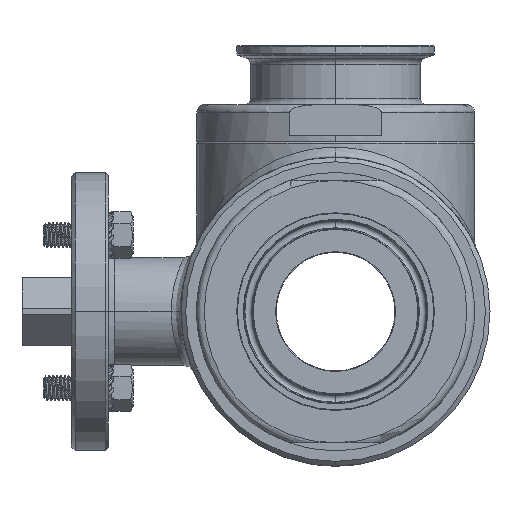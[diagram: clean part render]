
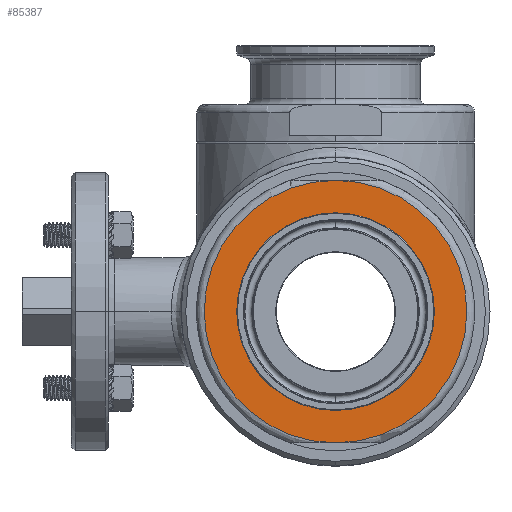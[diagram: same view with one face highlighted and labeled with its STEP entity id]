
A CAD part, left-side view. The second image highlights one B-rep face of the part: STEP entity #85387.
In plain terms, the highlighted planar face has unit normal (-1, 0, 0).
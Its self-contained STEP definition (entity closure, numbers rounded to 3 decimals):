
#44442=CARTESIAN_POINT('',(-67.,0.,0.));
#44443=DIRECTION('',(1.,0.,0.));
#44444=DIRECTION('',(0.,0.,1.));
#44445=AXIS2_PLACEMENT_3D('',#44442,#44443,#44444);
#44498=CARTESIAN_POINT('',(-67.,0.,0.));
#44499=DIRECTION('',(-1.,0.,0.));
#44500=DIRECTION('',(0.,0.,1.));
#44501=AXIS2_PLACEMENT_3D('',#44498,#44499,#44500);
#44629=CARTESIAN_POINT('',(-67.,0.,0.));
#44630=DIRECTION('',(1.,0.,0.));
#44631=DIRECTION('',(0.,0.,1.));
#44632=AXIS2_PLACEMENT_3D('',#44629,#44630,#44631);
#44706=CARTESIAN_POINT('',(-67.,0.,0.));
#44707=DIRECTION('',(-1.,0.,0.));
#44708=DIRECTION('',(0.,0.,1.));
#44709=AXIS2_PLACEMENT_3D('',#44706,#44707,#44708);
#47011=CARTESIAN_POINT('',(-67.,0.,42.5));
#47012=CARTESIAN_POINT('',(-67.,0.,-42.5));
#47013=VERTEX_POINT('',#47011);
#47014=VERTEX_POINT('',#47012);
#47019=CARTESIAN_POINT('',(-67.,0.,29.5));
#47020=CARTESIAN_POINT('',(-67.,0.,-29.5));
#47021=VERTEX_POINT('',#47019);
#47022=VERTEX_POINT('',#47020);
#85371=CARTESIAN_POINT('',(-67.,0.,0.));
#85372=DIRECTION('',(-1.,0.,0.));
#85373=DIRECTION('',(0.,0.,-1.));
#85374=AXIS2_PLACEMENT_3D('',#85371,#85372,#85373);
#85375=PLANE('',#85374);
#85377=ORIENTED_EDGE('',*,*,#85376,.F.);
#85379=ORIENTED_EDGE('',*,*,#85378,.T.);
#85380=EDGE_LOOP('',(#85377,#85379));
#85381=FACE_OUTER_BOUND('',#85380,.F.);
#85382=ORIENTED_EDGE('',*,*,#85361,.F.);
#85384=ORIENTED_EDGE('',*,*,#85383,.T.);
#85385=EDGE_LOOP('',(#85382,#85384));
#85386=FACE_BOUND('',#85385,.F.);
#85387=ADVANCED_FACE('',(#85381,#85386),#85375,.T.);
#44446=CIRCLE('',#44445,29.5);
#44502=CIRCLE('',#44501,42.5);
#44633=CIRCLE('',#44632,42.5);
#44710=CIRCLE('',#44709,29.5);
#85361=EDGE_CURVE('',#47021,#47022,#44446,.T.);
#85376=EDGE_CURVE('',#47013,#47014,#44502,.T.);
#85378=EDGE_CURVE('',#47013,#47014,#44633,.T.);
#85383=EDGE_CURVE('',#47021,#47022,#44710,.T.);
